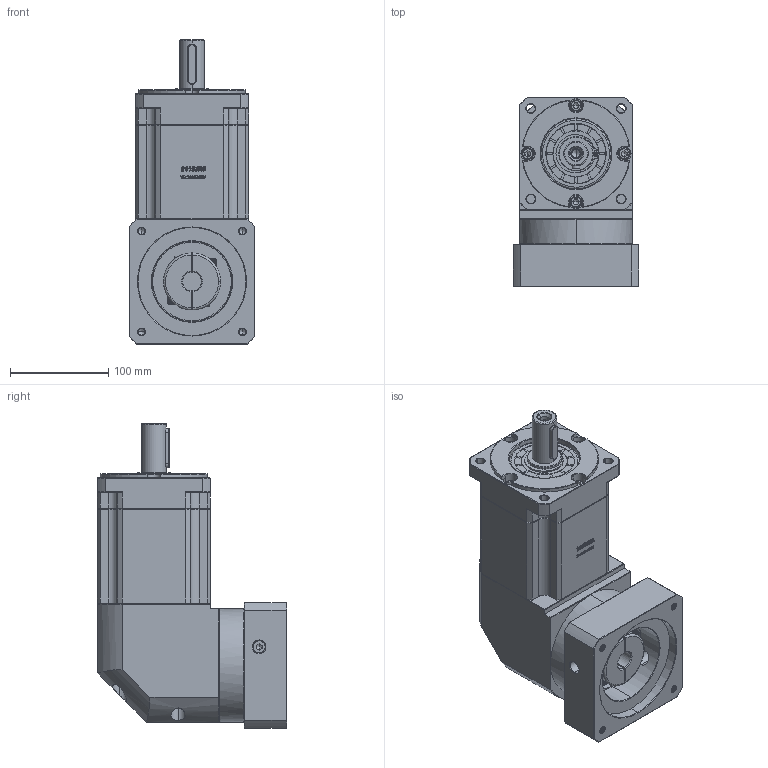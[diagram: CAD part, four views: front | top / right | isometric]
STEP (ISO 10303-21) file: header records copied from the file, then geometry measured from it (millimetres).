
FILE_DESCRIPTION (( 'STEP AP214' ), '1' );
FILE_NAME ('ZBR115A-D25-L3-19-110-145-M8.step', '2023-03-03T04:57:52', ( '' ), ( 'Microsoft' ), 'SwSTEP 2.0', 'SolidWorks 2016', '' );
FILE_SCHEMA (( 'AUTOMOTIVE_DESIGN' ));
Length unit declared in the file: millimetre
Products named in the file (1): ZBR115A-D25-L3-19-110-145-M8
Bounding box: 128 x 192.4 x 310 mm (x, y, z)
Volume: 3701546.8 mm3; surface area: 278667.2 mm2
Topology: 6 solids, 6 shells, 2981 faces, 7904 edges, 5069 vertices
Faces by surface type: plane 1559, bspline 607, cylinder 439, cone 368, torus 8
Entity records: 161683 total; most frequent: CARTESIAN_POINT 59803, ORIENTED_EDGE 15748, DIRECTION 11917, EDGE_CURVE 7874, LINE 5305, VECTOR 5305, VERTEX_POINT 5069, AXIS2_PLACEMENT_3D 3306
